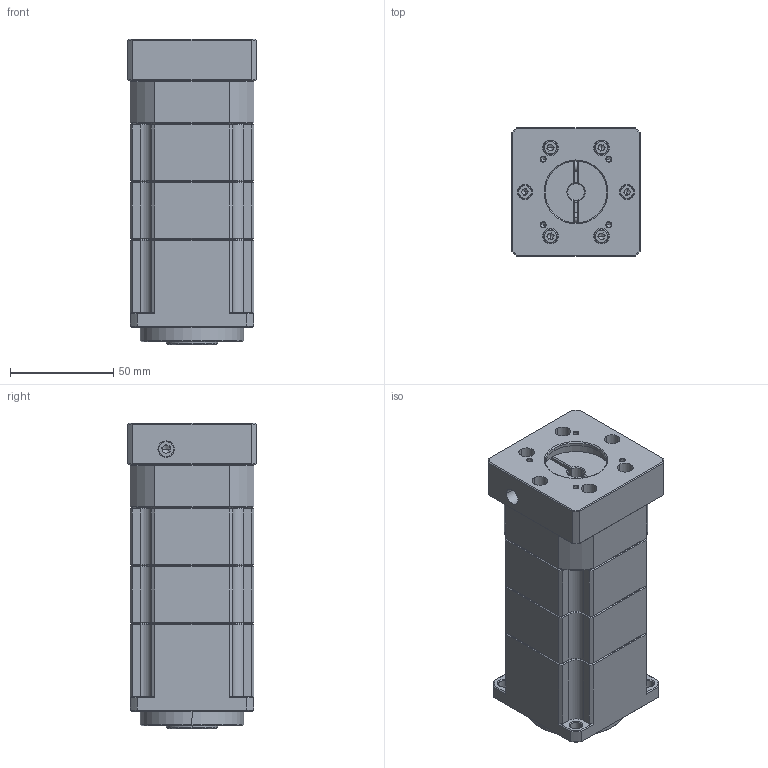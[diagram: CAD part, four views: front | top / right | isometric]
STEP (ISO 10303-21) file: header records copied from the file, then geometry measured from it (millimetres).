
FILE_DESCRIPTION (( 'STEP AP214' ), '1' );
FILE_NAME ('ZPB060-K16-L3-P1-8-30-45-M3.step', '2024-04-24T07:38:10', ( '' ), ( '' ), 'SwSTEP 2.0', 'SolidWorks 2016', '' );
FILE_SCHEMA (( 'AUTOMOTIVE_DESIGN' ));
Length unit declared in the file: millimetre
Products named in the file (1): ZPB060-K16-L3-P1-8-30-45-M3
Bounding box: 62.5 x 62.5 x 148 mm (x, y, z)
Volume: 439002 mm3; surface area: 85167.6 mm2
Topology: 16 solids, 17 shells, 2103 faces, 5809 edges, 3725 vertices
Faces by surface type: plane 1113, bspline 366, cylinder 274, cone 208, torus 96, sphere 46
Entity records: 105559 total; most frequent: CARTESIAN_POINT 32049, ORIENTED_EDGE 11314, DIRECTION 8936, EDGE_CURVE 5657, VERTEX_POINT 3656, LINE 3412, VECTOR 3412, AXIS2_PLACEMENT_3D 2762
